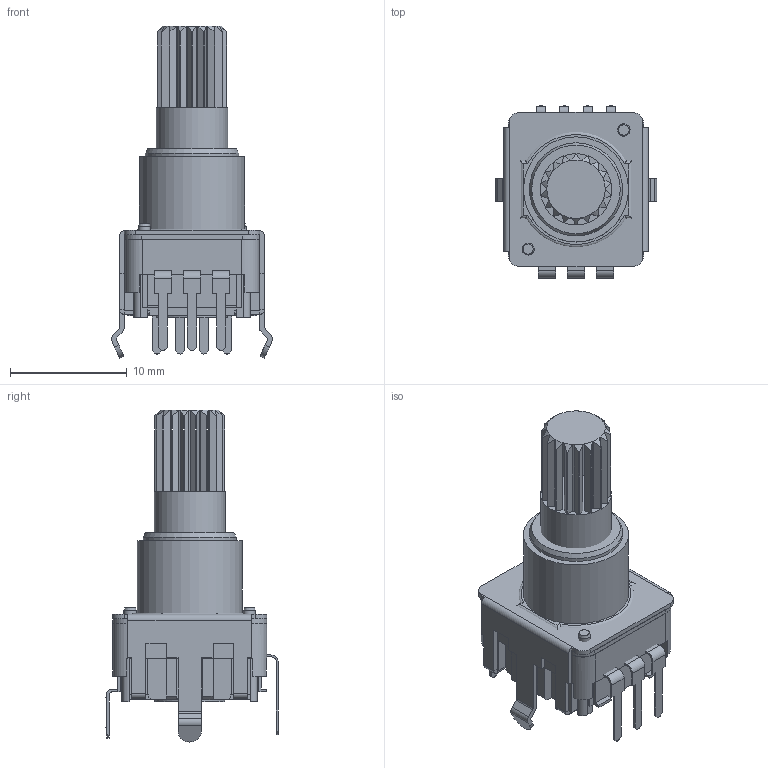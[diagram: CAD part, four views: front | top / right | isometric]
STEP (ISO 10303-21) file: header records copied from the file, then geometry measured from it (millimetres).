
FILE_DESCRIPTION(/* description */ (''),/* implementation_level */ '2;1');
FILE_NAME(/* name */ '\\Forward-ks-ad\開發專區\\X2\9AD896C45EE08A2D8A088AB2\X0\\設計機種開發作業\\X2\91CF75226A5F7A2E5C086848\X0\\ENCODER\機種開發\Encoder\DC12K\3D\CTS\DC12S12218KC31.stp',/* time_stamp */ '2020-06-17T15:20:57+08:00',/* author */ ('jia'),/* organization */ (''),/* preprocessor_version */ 'ST-DEVELOPER v15.2',/* originating_system */ 'Autodesk Inventor 2014',/* authorisation */ '');
FILE_SCHEMA (('AUTOMOTIVE_DESIGN { 1 0 10303 214 3 1 1 }'));
Length unit declared in the file: millimetre
Products named in the file (1): 組合1_Shrinkwrap_1
Bounding box: 13.79 x 14.76 x 28.44 mm (x, y, z)
Surface area: 2194.8 mm2 (no closed solid volume)
Topology: 0 solids, 19 shells, 383 faces, 1191 edges, 814 vertices
Faces by surface type: plane 292, cylinder 85, cone 4, torus 2
Full cylindrical faces by diameter (mm): 1.031 x1, 1.067 x1, 6 x1, 6.1 x1, 7.98 x1, 9 x1
Entity records: 13282 total; most frequent: CARTESIAN_POINT 2521, DIRECTION 2145, ORIENTED_EDGE 2009, EDGE_CURVE 1180, LINE 895, VECTOR 895, VERTEX_POINT 813, AXIS2_PLACEMENT_3D 625
